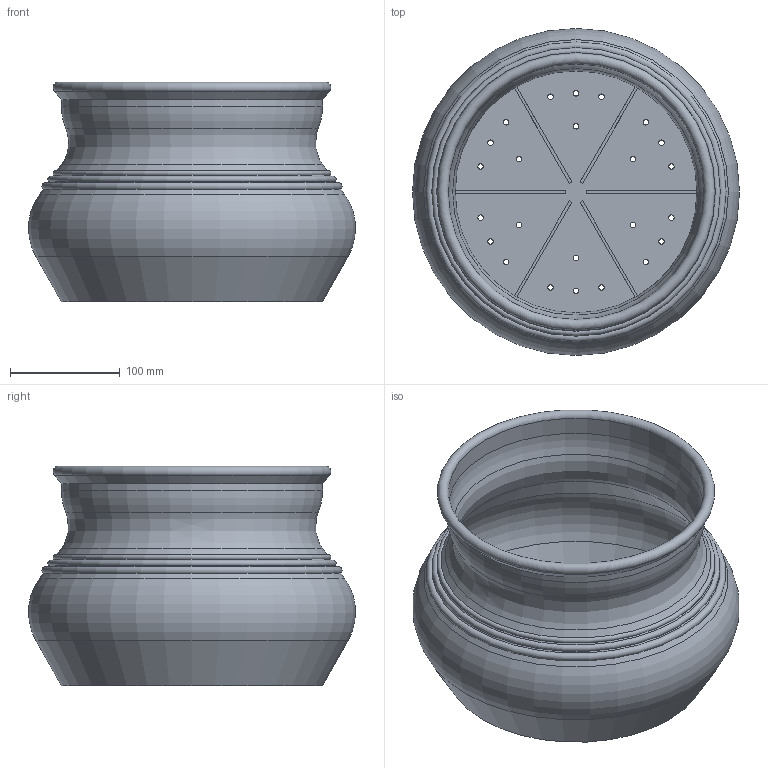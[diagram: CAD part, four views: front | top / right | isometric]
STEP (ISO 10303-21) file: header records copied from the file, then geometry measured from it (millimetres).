
FILE_DESCRIPTION(/* description */ (''),/* implementation_level */ '2;1');
FILE_NAME(/* name */ 'LR2406-S25-H200-D300_step.step',/* time_stamp */ '2024-02-01T10:59:21+01:00',/* author */ (''),/* organization */ (''),/* preprocessor_version */ 'ST-DEVELOPER v20',/* originating_system */ 'Autodesk Translation Framework v12.20.1.177',/* authorisation */ '');
FILE_SCHEMA (('AUTOMOTIVE_DESIGN { 1 0 10303 214 3 1 1 }'));
Length unit declared in the file: millimetre
Products named in the file (1): LR2406-S25-H200-D300
Bounding box: 297.98 x 297.98 x 200 mm (x, y, z)
Volume: 596930.1 mm3; surface area: 456468.4 mm2
Topology: 1 solids, 1 shells, 70 faces, 185 edges, 117 vertices
Faces by surface type: cylinder 32, plane 20, torus 10, cone 8
Full cylindrical faces by diameter (mm): 5 x24, 233 x1, 238 x1
Entity records: 2336 total; most frequent: DIRECTION 430, CARTESIAN_POINT 373, ORIENTED_EDGE 370, EDGE_CURVE 185, AXIS2_PLACEMENT_3D 174, EDGE_LOOP 118, VERTEX_POINT 117, CIRCLE 103
